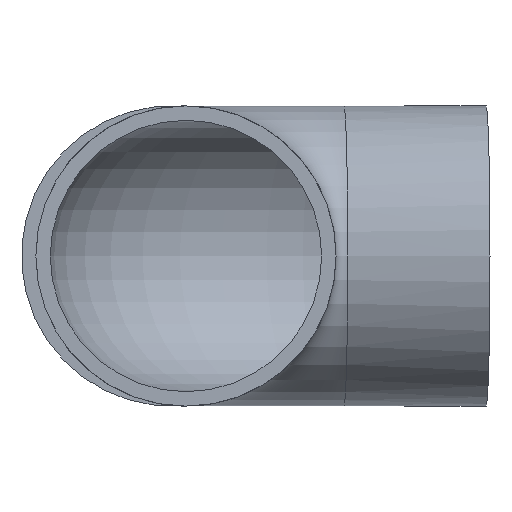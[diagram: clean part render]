
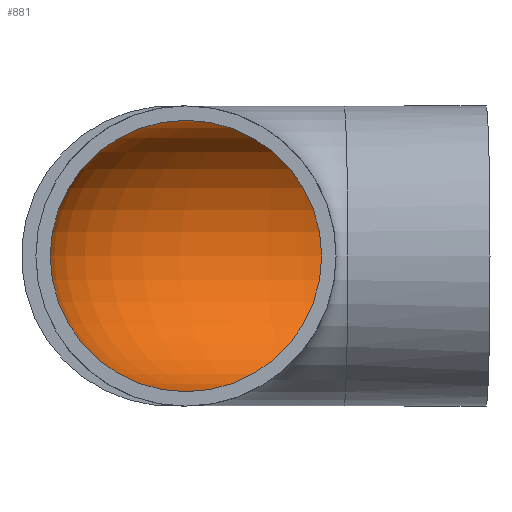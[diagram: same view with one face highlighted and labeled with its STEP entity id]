
A CAD part, front view. The second image highlights one B-rep face of the part: STEP entity #881.
In plain terms, the highlighted toroidal (fillet/blend) face has major radius 40.5 mm and minor radius 33.9 mm.
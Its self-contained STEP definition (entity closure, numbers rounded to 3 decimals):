
#26=FACE_BOUND($,#173,.T.);
#34=TOROIDAL_SURFACE($,#967,40.5,33.9);
#109=FACE_OUTER_BOUND($,#172,.T.);
#172=EDGE_LOOP($,(#753));
#173=EDGE_LOOP($,(#754));
#297=CIRCLE($,#968,33.9);
#298=CIRCLE($,#969,33.9);
#397=VERTEX_POINT($,#2394);
#398=VERTEX_POINT($,#2396);
#519=EDGE_CURVE($,#397,#397,#297,.T.);
#520=EDGE_CURVE($,#398,#398,#298,.T.);
#753=ORIENTED_EDGE($,*,*,#519,.F.);
#754=ORIENTED_EDGE($,*,*,#520,.T.);
#881=ADVANCED_FACE($,(#109,#26),#34,.F.);
#967=AXIS2_PLACEMENT_3D($,#2393,#1138,#1139);
#968=AXIS2_PLACEMENT_3D($,#2395,#1140,#1141);
#969=AXIS2_PLACEMENT_3D($,#2397,#1142,#1143);
#1138=DIRECTION('center_axis',(0.,0.,-1.));
#1139=DIRECTION('ref_axis',(-1.,0.,0.));
#1140=DIRECTION('center_axis',(-1.,-0.026,0.));
#1141=DIRECTION('ref_axis',(0.026,-1.,0.));
#1142=DIRECTION('center_axis',(0.,-1.,0.));
#1143=DIRECTION('ref_axis',(1.,0.,0.));
#2393=CARTESIAN_POINT('Origin',(40.5,35.547,0.));
#2394=CARTESIAN_POINT('',(38.552,109.921,0.));
#2395=CARTESIAN_POINT('Origin',(39.44,76.033,0.));
#2396=CARTESIAN_POINT('',(-33.9,35.547,0.));
#2397=CARTESIAN_POINT('Origin',(0.,35.547,0.));
